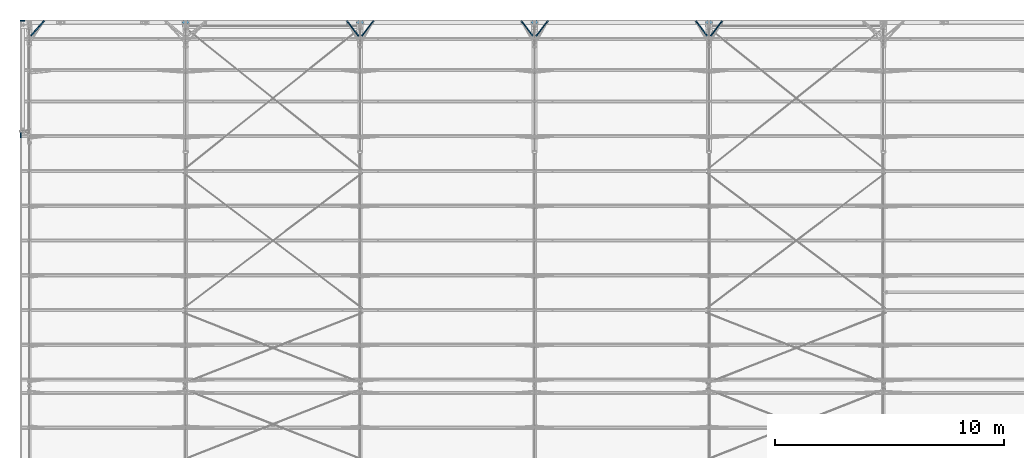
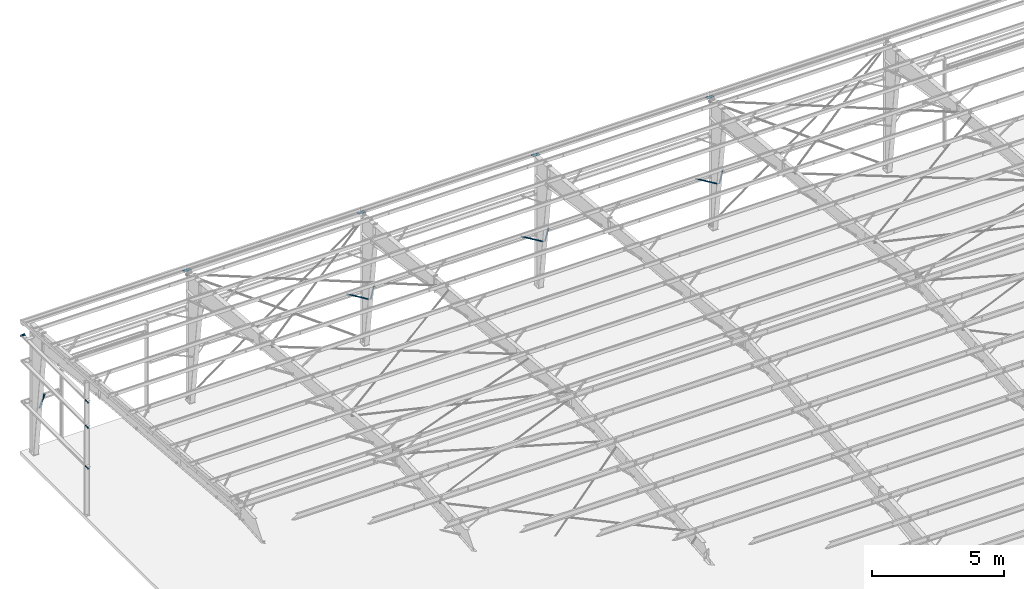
# One storey, part 23 of 185: 15 beams, 15 elements without a shape of their own.
"""IFC2X3 building model written with IfcOpenShell, lengths in millimetres."""

import ifcopenshell
import ifcopenshell.guid

model = None  # the IFC model being written
_history = None  # IfcOwnerHistory: only IFC2X3 demands one
_inside = {}  # id of a spatial element -> (the spatial element, [elements in it])
_under = {}  # id of a project, library or spatial element -> (it, [spatial elements below it])
_declared = {}  # id of a project -> (the project, [libraries it declares])
_typed = {}  # id of a type object -> (the type object, [elements of that type])
_made_of = {}  # id of a material, layer set ... -> (it, [elements and type objects made of it])


def new_model(schema):
    """Start an empty IFC model of exactly this schema.

    Asked for "IFC4X3", IfcOpenShell would pick the latest addendum, in which some entities
    have other attributes; the version numbers below select the first issue.
    IFC2X3 requires an IfcOwnerHistory on every rooted entity: one is made here for all.
    """
    global model, _history
    if schema == "IFC4X3":
        model = ifcopenshell.file(schema_version=(4, 3, 0, 0))
    else:
        model = ifcopenshell.file(schema=schema)
    _inside.clear()
    _under.clear()
    _declared.clear()
    _typed.clear()
    _made_of.clear()
    _history = None
    if model.schema == "IFC2X3":
        org = make("IfcOrganization", Name="unknown")
        user = make(
            "IfcPersonAndOrganization",
            ThePerson=make("IfcPerson", FamilyName="unknown"),
            TheOrganization=org,
        )
        app = make(
            "IfcApplication",
            ApplicationDeveloper=org,
            Version="unknown",
            ApplicationFullName="unknown",
            ApplicationIdentifier="unknown",
        )
        _history = make(
            "IfcOwnerHistory",
            OwningUser=user,
            OwningApplication=app,
            ChangeAction="ADDED",
            CreationDate=0,
        )
    return model


def make(cls, **values):
    """One entity of the class cls with the attributes given. An attribute that is None is left unset."""
    return model.create_entity(
        cls, **{name: value for name, value in values.items() if value is not None}
    )


def rooted(cls, **values):
    """An entity with a GlobalId (a new one), such as an element, a storey or a relation."""
    return make(cls, GlobalId=ifcopenshell.guid.new(), OwnerHistory=_history, **values)


def si_unit(unit_type, name, prefix=None):
    """IfcSIUnit, for example si_unit("LENGTHUNIT", "METRE", prefix="MILLI")."""
    return make("IfcSIUnit", UnitType=unit_type, Prefix=prefix, Name=name)


def assignment(units):
    """IfcUnitAssignment: the units of a project."""
    return None if units is None else make("IfcUnitAssignment", Units=units)


def point(xyz):
    """IfcCartesianPoint."""
    return None if xyz is None else make("IfcCartesianPoint", Coordinates=xyz)


def direction(xyz):
    """IfcDirection."""
    return None if xyz is None else make("IfcDirection", DirectionRatios=xyz)


def frame(location, z_axis=None, x_axis=None):
    """IfcAxis2Placement3D, a coordinate frame: its origin and axes. An axis left out is left unset."""
    return make(
        "IfcAxis2Placement3D",
        Location=point(location),
        Axis=direction(z_axis),
        RefDirection=direction(x_axis),
    )


def frame_2d(location, x_axis=None):
    """IfcAxis2Placement2D, a coordinate frame in the plane: its origin and x axis."""
    return make(
        "IfcAxis2Placement2D", Location=point(location), RefDirection=direction(x_axis)
    )


def origin_with_axes():
    """The frame at (0, 0, 0) with the z axis (0, 0, 1) and the x axis (1, 0, 0) written out."""
    return frame((0.0, 0.0, 0.0), z_axis=(0.0, 0.0, 1.0), x_axis=(1.0, 0.0, 0.0))


def origin_2d_with_axis():
    """The frame at (0, 0) in the plane with the x axis (1, 0) written out."""
    return frame_2d((0.0, 0.0), x_axis=(1.0, 0.0))


def place(relative_to, where):
    """IfcLocalPlacement: puts the frame where relative to a parent placement (None: the world)."""
    return make(
        "IfcLocalPlacement", PlacementRelTo=relative_to, RelativePlacement=where
    )


def context(
    kind, dimensions, precision=None, world=None, true_north=None, identifier=None
):
    """IfcGeometricRepresentationContext, for example the 3D "Model" context."""
    return make(
        "IfcGeometricRepresentationContext",
        ContextIdentifier=identifier,
        ContextType=kind,
        CoordinateSpaceDimension=dimensions,
        Precision=precision,
        WorldCoordinateSystem=world,
        TrueNorth=true_north,
    )


def subcontext(parent, identifier, kind, view, scale=None):
    """IfcGeometricRepresentationSubContext, for example "Body" below "Model"."""
    return make(
        "IfcGeometricRepresentationSubContext",
        ContextIdentifier=identifier,
        ContextType=kind,
        ParentContext=parent,
        TargetScale=scale,
        TargetView=view,
    )


def project(units=None, contexts=None):
    """IfcProject with its units and contexts."""
    return rooted(
        "IfcProject",
        Name="project",
        RepresentationContexts=contexts,
        UnitsInContext=assignment(units),
    )


def spatial(cls, under=None, at=None, **own):
    """A site, building, storey or space (cls), placed at a placement, below another one or the project."""
    s = rooted(cls, ObjectPlacement=at, **own)
    if under is not None:
        _under.setdefault(under.id(), (under, []))[1].append(s)
    return s


def polyline(points):
    """IfcPolyline through the points."""
    return make("IfcPolyline", Points=[point(p) for p in points])


def profile(cls, at=None, kind="AREA", **sizes):
    """A parametric profile (cls). Its sizes go by their IFC names, for example OverallWidth=200.0."""
    return make(cls, ProfileType=kind, Position=at, **sizes)


def rectangle(**sizes):
    """IfcRectangleProfileDef."""
    return profile("IfcRectangleProfileDef", **sizes)


def outline(outer, holes=None, kind="AREA"):
    """IfcArbitraryClosedProfileDef: a profile drawn as a closed curve; with holes, ...WithVoids."""
    if holes is None:
        return make("IfcArbitraryClosedProfileDef", ProfileType=kind, OuterCurve=outer)
    return make(
        "IfcArbitraryProfileDefWithVoids",
        ProfileType=kind,
        OuterCurve=outer,
        InnerCurves=holes,
    )


def extrude(swept, where, along, depth):
    """IfcExtrudedAreaSolid: the profile swept, set in the frame where, extruded along a direction by depth."""
    return make(
        "IfcExtrudedAreaSolid",
        SweptArea=swept,
        Position=where,
        ExtrudedDirection=direction(along),
        Depth=depth,
    )


def shape(context_of_items, identifier, shape_type, items):
    """IfcShapeRepresentation: the items that make up one representation, for example the "Body"."""
    return make(
        "IfcShapeRepresentation",
        ContextOfItems=context_of_items,
        RepresentationIdentifier=identifier,
        RepresentationType=shape_type,
        Items=items,
    )


def material(Name=None, Category=None):
    """IfcMaterial."""
    return make("IfcMaterial", Name=Name, Category=Category)


def made_of(thing, what):
    """Note that an element or type object is made of a material, layer set ...; save() writes the relation."""
    if what is not None:
        _made_of.setdefault(what.id(), (what, []))[1].append(thing)
    return thing


def type_object(cls, material=None, **own):
    """A type object (cls), such as IfcWallType, which elements share."""
    return made_of(rooted(cls, **own), material)


def element(
    cls,
    number,
    at=None,
    inside=None,
    cuts=None,
    type_object=None,
    material=None,
    context=None,
    identifier="Body",
    shape_type=None,
    held_by="IfcProductDefinitionShape",
    body=None,
    shapes=None,
    **own,
):
    """One element of the class cls, such as IfcWall. Its Tag is "e" and its number.

    at: its placement. inside: the storey or other place that contains it. cuts: it is an
    opening in that element (IfcRelVoidsElement). A single representation is given by context,
    identifier, shape_type and body (its items); several are given by shapes. held_by: the class
    of the entity that holds the representations. save() writes the other relations.
    """
    e = rooted(cls, Tag="e%d" % number, ObjectPlacement=at, **own)
    if body is not None:
        shapes = [shape(context, identifier, shape_type, body)]
    if shapes is not None:
        e.Representation = make(held_by, Representations=shapes)
    if inside is not None:
        _inside.setdefault(inside.id(), (inside, []))[1].append(e)
    if cuts is not None:
        rooted(
            "IfcRelVoidsElement", RelatingBuildingElement=cuts, RelatedOpeningElement=e
        )
    if type_object is not None:
        _typed.setdefault(type_object.id(), (type_object, []))[1].append(e)
    return made_of(e, material)


def aggregate(whole, parts):
    """IfcRelAggregates: a whole, such as a stair, and the parts it consists of."""
    return rooted("IfcRelAggregates", RelatingObject=whole, RelatedObjects=parts)


def save(model, path):
    """Write the relations noted so far, then the file.

    IfcRelAggregates (storeys below a building ...), IfcRelContainedInSpatialStructure (elements
    in a storey), IfcRelDefinesByType, IfcRelAssociatesMaterial and IfcRelDeclares: one each for
    every whole, place, type object, material and project.
    """
    for whole, parts in _under.values():
        aggregate(whole, parts)
    for where, things in _inside.values():
        rooted(
            "IfcRelContainedInSpatialStructure",
            RelatedElements=things,
            RelatingStructure=where,
        )
    for kind, things in _typed.values():
        rooted("IfcRelDefinesByType", RelatedObjects=things, RelatingType=kind)
    for what, things in _made_of.values():
        rooted("IfcRelAssociatesMaterial", RelatedObjects=things, RelatingMaterial=what)
    for by, libraries in _declared.values():
        rooted("IfcRelDeclares", RelatingContext=by, RelatedDefinitions=libraries)
    model.write(path)


model = new_model("IFC2X3")

# Units and contexts
model_context = context("Model", 3, precision=1e-05, world=origin_with_axes())
body_context = subcontext(model_context, "Body", "Model", "MODEL_VIEW")
ifc_project = project(units=[si_unit("LENGTHUNIT", "METRE", prefix="MILLI"), si_unit("AREAUNIT", "SQUARE_METRE"), si_unit("VOLUMEUNIT", "CUBIC_METRE"), si_unit("MASSUNIT", "GRAM", prefix="KILO"), si_unit("TIMEUNIT", "SECOND"), si_unit("PLANEANGLEUNIT", "RADIAN"), si_unit("SOLIDANGLEUNIT", "STERADIAN"), si_unit("THERMODYNAMICTEMPERATUREUNIT", "DEGREE_CELSIUS"), si_unit("LUMINOUSINTENSITYUNIT", "LUMEN")], contexts=[model_context])

# Site, building, storey
site_placement = place(None, origin_with_axes())
site = spatial("IfcSite", under=ifc_project, at=site_placement, Name="Undefined", CompositionType="ELEMENT")
building_placement = place(site_placement, origin_with_axes())
building = spatial("IfcBuilding", under=site, at=building_placement, Name="Undefined", CompositionType="ELEMENT")
storey_placement = place(building_placement, origin_with_axes())
storey = spatial("IfcBuildingStorey", under=building, at=storey_placement, Name="Undefined", CompositionType="ELEMENT", Elevation=0.0)

# Assembly, beam
assembly_1_placement = place(storey_placement, origin_with_axes())
assembly_1 = element("IfcElementAssembly", 1, at=assembly_1_placement, inside=storey, Name="Steel Assembly", AssemblyPlace="NOTDEFINED", PredefinedType="RIGID_FRAME")
ifc_material = material(Name="STEEL/55")
beam_type_1 = type_object("IfcBeamType", Name="FLDPL2\"X2\"X1/16\"X90\"", PredefinedType="NOTDEFINED")
beam_1_placement = place(assembly_1_placement, frame((5.95287499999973, 27071.9165569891, 2316.1625), z_axis=(0.0, 0.0, -1.0), x_axis=(0.0, -1.0, 0.0)))
beam_1 = element("IfcBeam", 2, at=beam_1_placement, type_object=beam_type_1, material=ifc_material, Name="WINDOW FRAME ANGLE", ObjectType="FLDPL2\"X2\"X1/16\"X90\"", context=body_context, shape_type="SweptSolid", body=[
    extrude(outline(polyline([(0.793499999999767, 23.8130000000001), (0.793499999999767, -25.4000000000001), (-0.793499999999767, -25.4000000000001), (-0.793499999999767, 25.4000000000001), (50.0065000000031, 25.4000000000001), (50.0065000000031, 23.8130000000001), (0.793499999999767, 23.8130000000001)])), frame((203.200000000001, 0.0, 0.0), z_axis=(-1.0, 0.0, 0.0), x_axis=(0.0, -1.0, 0.0)), (0.0, 0.0, 1.0), 203.2),
])
aggregate(assembly_1, [beam_1])

assembly_2_placement = place(storey_placement, origin_with_axes())
assembly_2 = element("IfcElementAssembly", 3, at=assembly_2_placement, inside=storey, Name="Steel Assembly", AssemblyPlace="NOTDEFINED", PredefinedType="RIGID_FRAME")
beam_2_placement = place(assembly_2_placement, frame((5.95287499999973, 27071.9165569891, 4195.7625), z_axis=(0.0, 0.0, -1.0), x_axis=(0.0, -1.0, 0.0)))
beam_2 = element("IfcBeam", 4, at=beam_2_placement, type_object=beam_type_1, material=ifc_material, Name="WINDOW FRAME ANGLE", ObjectType="FLDPL2\"X2\"X1/16\"X90\"", context=body_context, shape_type="SweptSolid", body=[
    extrude(outline(polyline([(0.793499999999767, 23.8130000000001), (0.793499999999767, -25.4000000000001), (-0.793499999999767, -25.4000000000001), (-0.793499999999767, 25.4000000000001), (50.0065000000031, 25.4000000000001), (50.0065000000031, 23.8130000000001), (0.793499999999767, 23.8130000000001)])), frame((203.200000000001, 0.0, 0.0), z_axis=(-1.0, 0.0, 0.0), x_axis=(0.0, -1.0, 0.0)), (0.0, 0.0, 1.0), 203.2),
])
aggregate(assembly_2, [beam_2])

assembly_3_placement = place(storey_placement, origin_with_axes())
assembly_3 = element("IfcElementAssembly", 5, at=assembly_3_placement, inside=storey, Name="Steel Assembly", AssemblyPlace="NOTDEFINED", PredefinedType="RIGID_FRAME")
beam_3_placement = place(assembly_3_placement, frame((5.95287499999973, 27071.9165569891, 5364.1625), z_axis=(0.0, 0.0, -1.0), x_axis=(0.0, -1.0, 0.0)))
beam_3 = element("IfcBeam", 6, at=beam_3_placement, type_object=beam_type_1, material=ifc_material, Name="WINDOW FRAME ANGLE", ObjectType="FLDPL2\"X2\"X1/16\"X90\"", context=body_context, shape_type="SweptSolid", body=[
    extrude(outline(polyline([(0.793499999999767, 23.8130000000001), (0.793499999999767, -25.4000000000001), (-0.793499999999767, -25.4000000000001), (-0.793499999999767, 25.4000000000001), (50.0065000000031, 25.4000000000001), (50.0065000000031, 23.8130000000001), (0.793499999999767, 23.8130000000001)])), frame((203.200000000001, 0.0, 0.0), z_axis=(-1.0, 0.0, 0.0), x_axis=(0.0, -1.0, 0.0)), (0.0, 0.0, 1.0), 203.2),
])
aggregate(assembly_3, [beam_3])

assembly_4_placement = place(storey_placement, origin_with_axes())
assembly_4 = element("IfcElementAssembly", 7, at=assembly_4_placement, inside=storey, Name="Steel Assembly", AssemblyPlace="NOTDEFINED", PredefinedType="RIGID_FRAME")
beam_4_placement = place(assembly_4_placement, frame((203.199998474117, 31990.5065, 5360.99000003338), z_axis=(0.0, 0.0, -1.0), x_axis=(-1.0, 0.0, 0.0)))
beam_4 = element("IfcBeam", 8, at=beam_4_placement, type_object=beam_type_1, material=ifc_material, Name="WINDOW FRAME ANGLE", ObjectType="FLDPL2\"X2\"X1/16\"X90\"", context=body_context, shape_type="SweptSolid", body=[
    extrude(outline(polyline([(0.793499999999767, 23.8130000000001), (0.793499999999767, -25.4000000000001), (-0.793499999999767, -25.4000000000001), (-0.793499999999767, 25.4000000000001), (50.0065000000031, 25.4000000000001), (50.0065000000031, 23.8130000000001), (0.793499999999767, 23.8130000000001)])), frame((203.200000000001, 0.0, 0.0), z_axis=(-1.0, 0.0, 0.0), x_axis=(0.0, -1.0, 0.0)), (0.0, 0.0, 1.0), 203.2),
])
aggregate(assembly_4, [beam_4])

assembly_5_placement = place(storey_placement, origin_with_axes())
assembly_5 = element("IfcElementAssembly", 9, at=assembly_5_placement, inside=storey, Name="Steel Assembly", AssemblyPlace="NOTDEFINED", PredefinedType="RIGID_FRAME")
beam_type_2 = type_object("IfcBeamType", Name="FB-", PredefinedType="NOTDEFINED")
beam_5_placement = place(assembly_5_placement, frame((417.369007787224, 31291.5033934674, 2287.58749999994), z_axis=(0.0, 0.0, 1.0), x_axis=(0.665513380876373, 0.746385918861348, 0.0)))
beam_5 = element("IfcBeam", 10, at=beam_5_placement, type_object=beam_type_2, material=ifc_material, Name="2X2 FLANGE BRACE X 36", ObjectType="FB-", context=body_context, shape_type="SweptSolid", body=[
    extrude(outline(polyline([(1.5900000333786, 1.59000003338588), (50.7999992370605, 1.59000003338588), (50.7999992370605, 7.27595761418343e-12), (0.0, 0.0), (0.0, 50.7999992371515), (1.5900000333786, 50.7999992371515), (1.5900000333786, 1.59000003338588)])), frame((934.582005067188, 1.03759446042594e-13, 0.0), z_axis=(-1.0, 0.0, 0.0), x_axis=(0.0, -1.0, 0.0)), (0.0, 0.0, 1.0), 934.6),
])
aggregate(assembly_5, [beam_5])

assembly_6_placement = place(storey_placement, origin_with_axes())
assembly_6 = element("IfcElementAssembly", 11, at=assembly_6_placement, inside=storey, Name="Steel Assembly", AssemblyPlace="NOTDEFINED", PredefinedType="RIGID_FRAME")
beam_6_placement = place(assembly_6_placement, frame((30150.5210945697, 31233.776712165, 2286.00000000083), z_axis=(-0.793374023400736, 0.608734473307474, 0.0), x_axis=(0.608734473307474, 0.793374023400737, 0.0)))
beam_6 = element("IfcBeam", 12, at=beam_6_placement, type_object=beam_type_2, material=ifc_material, Name="2X2 FLANGE BRACE X 48", ObjectType="FB-", context=body_context, shape_type="SweptSolid", body=[
    extrude(outline(polyline([(1.5900000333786, 1.59000003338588), (50.7999992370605, 1.59000003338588), (50.7999992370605, 7.27595761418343e-12), (0.0, 0.0), (0.0, 50.7999992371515), (1.5900000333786, 50.7999992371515), (1.5900000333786, 1.59000003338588)])), frame((912.700833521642, 0.0, 0.0), z_axis=(-1.0, 0.0, 0.0), x_axis=(0.0, -1.0, 0.0)), (0.0, 0.0, 1.0), 912.7),
])
aggregate(assembly_6, [beam_6])

assembly_7_placement = place(storey_placement, origin_with_axes())
assembly_7 = element("IfcElementAssembly", 13, at=assembly_7_placement, inside=storey, Name="Steel Assembly", AssemblyPlace="NOTDEFINED", PredefinedType="RIGID_FRAME")
beam_7_placement = place(assembly_7_placement, frame((30047.478905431, 31233.776712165, 2285.9999999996), z_axis=(0.0, 0.0, 1.0), x_axis=(-0.608734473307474, 0.793374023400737, 0.0)))
beam_7 = element("IfcBeam", 14, at=beam_7_placement, type_object=beam_type_2, material=ifc_material, Name="2X2 FLANGE BRACE X 48", ObjectType="FB-", context=body_context, shape_type="SweptSolid", body=[
    extrude(outline(polyline([(1.5900000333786, 1.59000003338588), (50.7999992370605, 1.59000003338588), (50.7999992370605, 7.27595761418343e-12), (0.0, 0.0), (0.0, 50.7999992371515), (1.5900000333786, 50.7999992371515), (1.5900000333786, 1.59000003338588)])), frame((912.700833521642, 0.0, 0.0), z_axis=(-1.0, 0.0, 0.0), x_axis=(0.0, -1.0, 0.0)), (0.0, 0.0, 1.0), 912.7),
])
aggregate(assembly_7, [beam_7])

assembly_8_placement = place(storey_placement, origin_with_axes())
assembly_8 = element("IfcElementAssembly", 15, at=assembly_8_placement, inside=storey, Name="Steel Assembly", AssemblyPlace="NOTDEFINED", PredefinedType="RIGID_FRAME")
beam_8_placement = place(assembly_8_placement, frame((22530.5210945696, 31233.776712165, 2286.00000000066), z_axis=(-0.793374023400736, 0.608734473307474, 0.0), x_axis=(0.608734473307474, 0.793374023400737, 0.0)))
beam_8 = element("IfcBeam", 16, at=beam_8_placement, type_object=beam_type_2, material=ifc_material, Name="2X2 FLANGE BRACE X 48", ObjectType="FB-", context=body_context, shape_type="SweptSolid", body=[
    extrude(outline(polyline([(1.5900000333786, 1.59000003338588), (50.7999992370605, 1.59000003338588), (50.7999992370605, 7.27595761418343e-12), (0.0, 0.0), (0.0, 50.7999992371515), (1.5900000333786, 50.7999992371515), (1.5900000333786, 1.59000003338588)])), frame((912.700833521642, 0.0, 0.0), z_axis=(-1.0, 0.0, 0.0), x_axis=(0.0, -1.0, 0.0)), (0.0, 0.0, 1.0), 912.7),
])
aggregate(assembly_8, [beam_8])

assembly_9_placement = place(storey_placement, origin_with_axes())
assembly_9 = element("IfcElementAssembly", 17, at=assembly_9_placement, inside=storey, Name="Steel Assembly", AssemblyPlace="NOTDEFINED", PredefinedType="RIGID_FRAME")
beam_9_placement = place(assembly_9_placement, frame((22427.4789054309, 31233.776712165, 2285.99999999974), z_axis=(0.0, 0.0, 1.0), x_axis=(-0.608734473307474, 0.793374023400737, 0.0)))
beam_9 = element("IfcBeam", 18, at=beam_9_placement, type_object=beam_type_2, material=ifc_material, Name="2X2 FLANGE BRACE X 48", ObjectType="FB-", context=body_context, shape_type="SweptSolid", body=[
    extrude(outline(polyline([(1.5900000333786, 1.59000003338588), (50.7999992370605, 1.59000003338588), (50.7999992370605, 7.27595761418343e-12), (0.0, 0.0), (0.0, 50.7999992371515), (1.5900000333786, 50.7999992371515), (1.5900000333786, 1.59000003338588)])), frame((912.700833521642, 0.0, 0.0), z_axis=(-1.0, 0.0, 0.0), x_axis=(0.0, -1.0, 0.0)), (0.0, 0.0, 1.0), 912.7),
])
aggregate(assembly_9, [beam_9])

assembly_10_placement = place(storey_placement, origin_with_axes())
assembly_10 = element("IfcElementAssembly", 19, at=assembly_10_placement, inside=storey, Name="Steel Assembly", AssemblyPlace="NOTDEFINED", PredefinedType="RIGID_FRAME")
beam_10_placement = place(assembly_10_placement, frame((14910.5210945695, 31233.776712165, 2286.00000000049), z_axis=(-0.793374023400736, 0.608734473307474, 0.0), x_axis=(0.608734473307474, 0.793374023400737, 0.0)))
beam_10 = element("IfcBeam", 20, at=beam_10_placement, type_object=beam_type_2, material=ifc_material, Name="2X2 FLANGE BRACE X 48", ObjectType="FB-", context=body_context, shape_type="SweptSolid", body=[
    extrude(outline(polyline([(1.5900000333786, 1.59000003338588), (50.7999992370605, 1.59000003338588), (50.7999992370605, 7.27595761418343e-12), (0.0, 0.0), (0.0, 50.7999992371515), (1.5900000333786, 50.7999992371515), (1.5900000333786, 1.59000003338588)])), frame((912.700833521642, 0.0, 0.0), z_axis=(-1.0, 0.0, 0.0), x_axis=(0.0, -1.0, 0.0)), (0.0, 0.0, 1.0), 912.7),
])
aggregate(assembly_10, [beam_10])

assembly_11_placement = place(storey_placement, origin_with_axes())
assembly_11 = element("IfcElementAssembly", 21, at=assembly_11_placement, inside=storey, Name="Steel Assembly", AssemblyPlace="NOTDEFINED", PredefinedType="RIGID_FRAME")
beam_11_placement = place(assembly_11_placement, frame((14807.4789054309, 31233.776712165, 2285.99999999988), z_axis=(0.0, 0.0, 1.0), x_axis=(-0.608734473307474, 0.793374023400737, 0.0)))
beam_11 = element("IfcBeam", 22, at=beam_11_placement, type_object=beam_type_2, material=ifc_material, Name="2X2 FLANGE BRACE X 48", ObjectType="FB-", context=body_context, shape_type="SweptSolid", body=[
    extrude(outline(polyline([(1.5900000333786, 1.59000003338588), (50.7999992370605, 1.59000003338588), (50.7999992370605, 7.27595761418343e-12), (0.0, 0.0), (0.0, 50.7999992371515), (1.5900000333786, 50.7999992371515), (1.5900000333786, 1.59000003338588)])), frame((912.700833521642, 0.0, 0.0), z_axis=(-1.0, 0.0, 0.0), x_axis=(0.0, -1.0, 0.0)), (0.0, 0.0, 1.0), 912.7),
])
aggregate(assembly_11, [beam_11])

assembly_12_placement = place(storey_placement, origin_with_axes())
assembly_12 = element("IfcElementAssembly", 23, at=assembly_12_placement, inside=storey, Name="Steel Assembly", AssemblyPlace="NOTDEFINED", PredefinedType="RIGID_FRAME")
beam_type_3 = type_object("IfcBeamType", Name="PL1/4\"X6\"", PredefinedType="NOTDEFINED")
beam_12_placement = place(assembly_12_placement, frame((30099.0, 31978.863669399, 5898.96936720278), z_axis=(1.0, 0.0, 0.0), x_axis=(0.0, -0.996545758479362, 0.0830454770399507)))
beam_12 = element("IfcBeam", 24, at=beam_12_placement, type_object=beam_type_3, material=ifc_material, Name="4 BOLT EAVE STRUT PL", ObjectType="PL1/4\"X6\"", context=body_context, shape_type="SweptSolid", body=[
    extrude(rectangle(XDim=6.35, YDim=304.8, at=origin_2d_with_axis()), frame((152.928251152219, -2.12230581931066e-15, 0.0), z_axis=(-1.0, 0.0, 0.0), x_axis=(0.0, -1.0, 0.0)), (0.0, 0.0, 1.0), 152.9),
])
aggregate(assembly_12, [beam_12])

assembly_13_placement = place(storey_placement, origin_with_axes())
assembly_13 = element("IfcElementAssembly", 25, at=assembly_13_placement, inside=storey, Name="Steel Assembly", AssemblyPlace="NOTDEFINED", PredefinedType="RIGID_FRAME")
beam_13_placement = place(assembly_13_placement, frame((22479.0, 31978.863669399, 5898.96936720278), z_axis=(1.0, 0.0, 0.0), x_axis=(0.0, -0.996545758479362, 0.0830454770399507)))
beam_13 = element("IfcBeam", 26, at=beam_13_placement, type_object=beam_type_3, material=ifc_material, Name="4 BOLT EAVE STRUT PL", ObjectType="PL1/4\"X6\"", context=body_context, shape_type="SweptSolid", body=[
    extrude(rectangle(XDim=6.35, YDim=304.8, at=origin_2d_with_axis()), frame((152.928251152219, -2.12230581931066e-15, 0.0), z_axis=(-1.0, 0.0, 0.0), x_axis=(0.0, -1.0, 0.0)), (0.0, 0.0, 1.0), 152.9),
])
aggregate(assembly_13, [beam_13])

assembly_14_placement = place(storey_placement, origin_with_axes())
assembly_14 = element("IfcElementAssembly", 27, at=assembly_14_placement, inside=storey, Name="Steel Assembly", AssemblyPlace="NOTDEFINED", PredefinedType="RIGID_FRAME")
beam_14_placement = place(assembly_14_placement, frame((14859.0, 31978.863669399, 5898.96936720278), z_axis=(1.0, 0.0, 0.0), x_axis=(0.0, -0.996545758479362, 0.0830454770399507)))
beam_14 = element("IfcBeam", 28, at=beam_14_placement, type_object=beam_type_3, material=ifc_material, Name="4 BOLT EAVE STRUT PL", ObjectType="PL1/4\"X6\"", context=body_context, shape_type="SweptSolid", body=[
    extrude(rectangle(XDim=6.35, YDim=304.8, at=origin_2d_with_axis()), frame((152.928251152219, -2.12230581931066e-15, 0.0), z_axis=(-1.0, 0.0, 0.0), x_axis=(0.0, -1.0, 0.0)), (0.0, 0.0, 1.0), 152.9),
])
aggregate(assembly_14, [beam_14])

assembly_15_placement = place(storey_placement, origin_with_axes())
assembly_15 = element("IfcElementAssembly", 29, at=assembly_15_placement, inside=storey, Name="Steel Assembly", AssemblyPlace="NOTDEFINED", PredefinedType="RIGID_FRAME")
beam_15_placement = place(assembly_15_placement, frame((7239.0, 31978.863669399, 5898.96936720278), z_axis=(1.0, 0.0, 0.0), x_axis=(0.0, -0.996545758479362, 0.0830454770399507)))
beam_15 = element("IfcBeam", 30, at=beam_15_placement, type_object=beam_type_3, material=ifc_material, Name="4 BOLT EAVE STRUT PL", ObjectType="PL1/4\"X6\"", context=body_context, shape_type="SweptSolid", body=[
    extrude(rectangle(XDim=6.35, YDim=304.8, at=origin_2d_with_axis()), frame((152.928251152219, -2.12230581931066e-15, 0.0), z_axis=(-1.0, 0.0, 0.0), x_axis=(0.0, -1.0, 0.0)), (0.0, 0.0, 1.0), 152.9),
])
aggregate(assembly_15, [beam_15])

save(model, "model.ifc")
